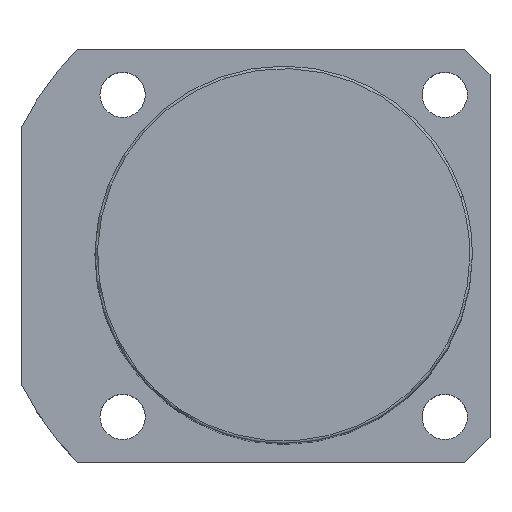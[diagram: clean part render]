
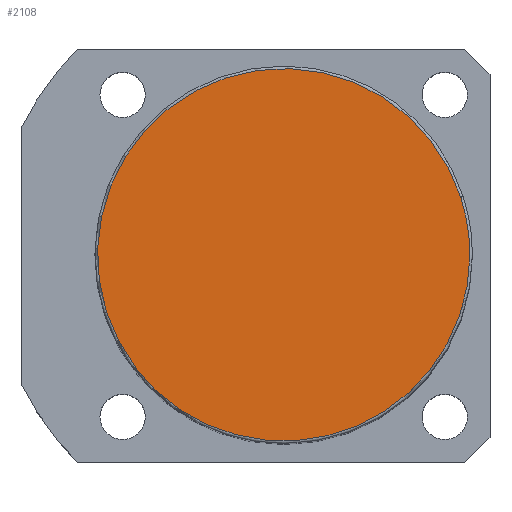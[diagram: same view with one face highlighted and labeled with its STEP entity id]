
A CAD part, top view. The second image highlights one B-rep face of the part: STEP entity #2108.
In plain terms, the highlighted planar face has unit normal (0, 0, 1).
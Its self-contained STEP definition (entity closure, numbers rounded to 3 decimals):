
#2074=CARTESIAN_POINT('',(37.0,0.0,138.0));
#2075=VERTEX_POINT('',#2074);
#2076=CARTESIAN_POINT('',(35.189,11.434,138.0));
#2077=VERTEX_POINT('',#2076);
#2078=CARTESIAN_POINT('',(0.0,0.0,138.0));
#2079=DIRECTION('',(0.0,0.0,1.0));
#2080=DIRECTION('',(1.0,0.0,0.0));
#2081=AXIS2_PLACEMENT_3D('',#2078,#2079,#2080);
#2082=CIRCLE('',#2081,37.0);
#2083=EDGE_CURVE('no 1960',#2075,#2077,#2082,.T.);
#2084=ORIENTED_EDGE('',*,*,#2083,.T.);
#2085=CARTESIAN_POINT('',(-35.189,-11.434,138.0));
#2086=VERTEX_POINT('',#2085);
#2087=CARTESIAN_POINT('',(0.0,0.0,138.0));
#2088=DIRECTION('',(0.0,0.0,1.0));
#2089=DIRECTION('',(1.0,0.0,0.0));
#2090=AXIS2_PLACEMENT_3D('',#2087,#2088,#2089);
#2091=CIRCLE('',#2090,37.0);
#2092=EDGE_CURVE('no 1966',#2077,#2086,#2091,.T.);
#2093=ORIENTED_EDGE('',*,*,#2092,.T.);
#2094=CARTESIAN_POINT('',(0.0,0.0,138.0));
#2095=DIRECTION('',(0.0,0.0,1.0));
#2096=DIRECTION('',(1.0,0.0,0.0));
#2097=AXIS2_PLACEMENT_3D('',#2094,#2095,#2096);
#2098=CIRCLE('',#2097,37.0);
#2099=EDGE_CURVE('no 1970',#2086,#2075,#2098,.T.);
#2100=ORIENTED_EDGE('',*,*,#2099,.T.);
#2101=EDGE_LOOP('',(#2084,#2093,#2100));
#2102=FACE_OUTER_BOUND('',#2101,.T.);
#2103=CARTESIAN_POINT('',(0.0,0.0,138.0));
#2104=DIRECTION('',(0.0,0.0,1.0));
#2105=DIRECTION('',(1.0,0.0,0.0));
#2106=AXIS2_PLACEMENT_3D('',#2103,#2104,#2105);
#2107=PLANE('',#2106);
#2108=ADVANCED_FACE('no 1951',(#2102),#2107,.T.);
